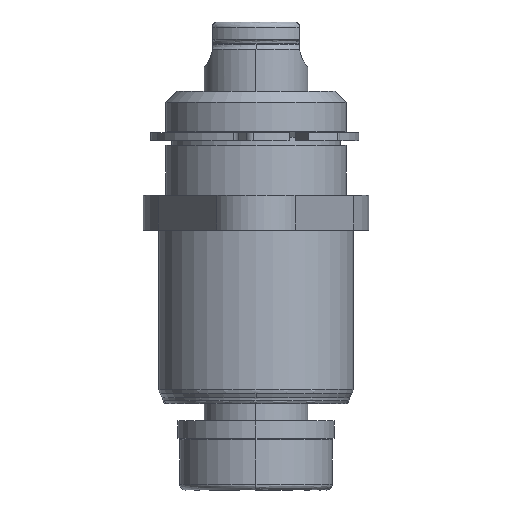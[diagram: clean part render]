
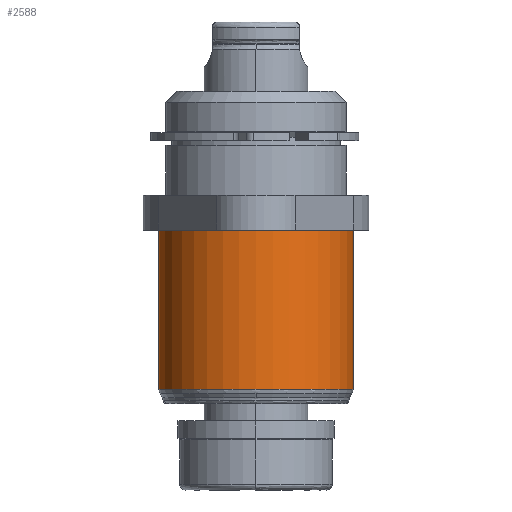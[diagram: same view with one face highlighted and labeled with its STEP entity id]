
A CAD part, left-side view. The second image highlights one B-rep face of the part: STEP entity #2588.
In plain terms, the highlighted cylindrical face has radius 17.775 mm (diameter 35.55 mm), a partial arc.
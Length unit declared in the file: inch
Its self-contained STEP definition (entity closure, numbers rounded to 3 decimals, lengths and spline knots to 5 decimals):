
#82 = CARTESIAN_POINT ( 'NONE',  ( 0., -1.25, 0.6998 ) ) ;
#89 = CARTESIAN_POINT ( 'NONE',  ( 0., -1.14758, -0.6998 ) ) ;
#166 = CIRCLE ( 'NONE', #3696, 0.6998 ) ;
#171 = EDGE_CURVE ( 'NONE', #2373, #3231, #3446, .T. ) ;
#301 = VERTEX_POINT ( 'NONE', #4235 ) ;
#354 = ORIENTED_EDGE ( 'NONE', *, *, #783, .T. ) ;
#407 = CARTESIAN_POINT ( 'NONE',  ( 0., -1.25, -0.6998 ) ) ;
#471 = CARTESIAN_POINT ( 'NONE',  ( 0., -1.14758, 0. ) ) ;
#698 = ORIENTED_EDGE ( 'NONE', *, *, #171, .F. ) ;
#738 = EDGE_LOOP ( 'NONE', ( #354, #1486, #1544, #698 ) ) ;
#783 = EDGE_CURVE ( 'NONE', #2373, #3236, #166, .T. ) ;
#907 = CIRCLE ( 'NONE', #1582, 0.6998 ) ;
#971 = DIRECTION ( 'NONE',  ( 0., 0., 1. ) ) ;
#1335 = EDGE_CURVE ( 'NONE', #301, #3231, #907, .T. ) ;
#1380 = DIRECTION ( 'NONE',  ( 0., 1., 0. ) ) ;
#1486 = ORIENTED_EDGE ( 'NONE', *, *, #2682, .T. ) ;
#1493 = CARTESIAN_POINT ( 'NONE',  ( 0., -1.14758, 0.6998 ) ) ;
#1544 = ORIENTED_EDGE ( 'NONE', *, *, #1335, .T. ) ;
#1582 = AXIS2_PLACEMENT_3D ( 'NONE', #3649, #1885, #2263 ) ;
#1840 = DIRECTION ( 'NONE',  ( 0., 0., 1. ) ) ;
#1885 = DIRECTION ( 'NONE',  ( 0., -1., 0. ) ) ;
#1953 = CARTESIAN_POINT ( 'NONE',  ( 0., -1.25, 0. ) ) ;
#2071 = AXIS2_PLACEMENT_3D ( 'NONE', #1953, #2313, #971 ) ;
#2091 = DIRECTION ( 'NONE',  ( 0., 1., 0. ) ) ;
#2152 = DIRECTION ( 'NONE',  ( 0., 1., 0. ) ) ;
#2263 = DIRECTION ( 'NONE',  ( 0., 0., 1. ) ) ;
#2313 = DIRECTION ( 'NONE',  ( 0., 1., 0. ) ) ;
#2373 = VERTEX_POINT ( 'NONE', #1493 ) ;
#2394 = VECTOR ( 'NONE', #1380, 39.37008 ) ;
#2588 = ADVANCED_FACE ( 'NONE', ( #2880 ), #2993, .T. ) ;
#2682 = EDGE_CURVE ( 'NONE', #3236, #301, #3496, .T. ) ;
#2719 = VECTOR ( 'NONE', #2091, 39.37008 ) ;
#2880 = FACE_OUTER_BOUND ( 'NONE', #738, .T. ) ;
#2993 = CYLINDRICAL_SURFACE ( 'NONE', #2071, 0.6998 ) ;
#3231 = VERTEX_POINT ( 'NONE', #4427 ) ;
#3236 = VERTEX_POINT ( 'NONE', #89 ) ;
#3446 = LINE ( 'NONE', #82, #2394 ) ;
#3496 = LINE ( 'NONE', #407, #2719 ) ;
#3649 = CARTESIAN_POINT ( 'NONE',  ( 0., 0., 0. ) ) ;
#3696 = AXIS2_PLACEMENT_3D ( 'NONE', #471, #2152, #1840 ) ;
#4235 = CARTESIAN_POINT ( 'NONE',  ( 0., 0., -0.6998 ) ) ;
#4427 = CARTESIAN_POINT ( 'NONE',  ( 0., 0., 0.6998 ) ) ;
